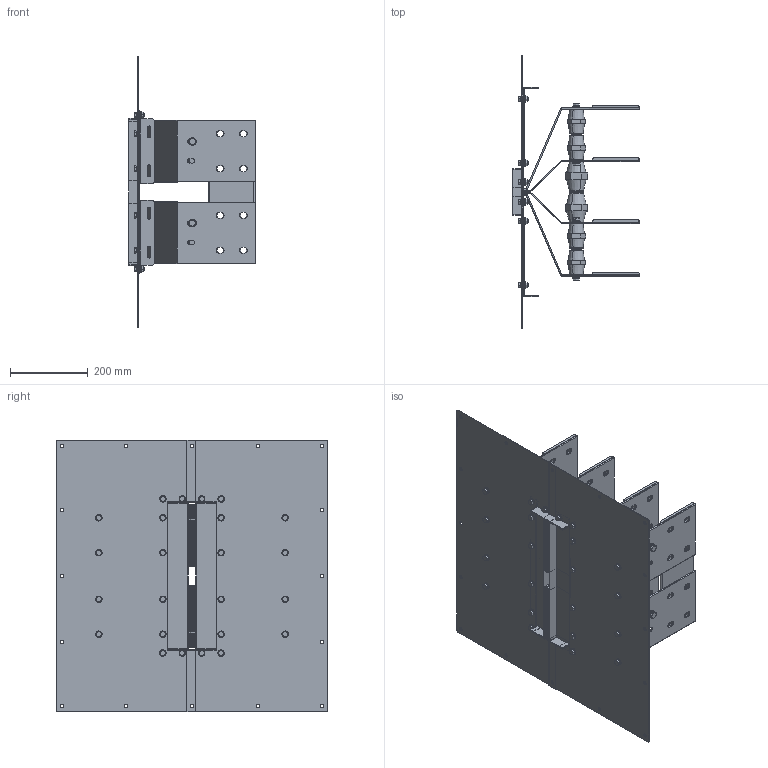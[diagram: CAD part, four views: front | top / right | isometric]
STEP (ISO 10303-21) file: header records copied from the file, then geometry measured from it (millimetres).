
FILE_DESCRIPTION(('CATIA V5 STEP','CAx-IF Rec.Pracs.--- Model Styling and Organization---1.5--- 2016-08-15','CAx-IF Rec.Pracs.---Supplemental Geometry---1.0---2011-11-01','CAx-IF Rec.Pracs.--- Composite Materials ---1.1---2010-07-15'),'2;1');
FILE_NAME('K:\COSCN 2011\32372311_RiduzioneSezioniBarre\03_Studio\__Modelli semplificati\XCP_UB semplificati per studi\XCP-S_UB_4C_Pe_CRT_Assieme\Cu\XCP-S_UB_4C_Pe_D_Assieme - 3200A Cu_CRT\XCP-S_UB_4C_Pe_D_Assieme - 3200A Cu_CRT.stp','2025-05-12T13:16:51+00:00',('Utente Bticino'),('Bticino S.p.A.'),'CATIA Version 5-6 Release 2020 SP5','CATIA V5 STEP AP214 v2','none');
FILE_SCHEMA(('AUTOMOTIVE_DESIGN { 1 0 10303 214 1 1 1 1 }'));
Length unit declared in the file: millimetre
Products named in the file (30): XCP-S_UB_4C_Pe_D_Assieme - 3200A Cu_CRT; XCP-S_UB_4C_Pe_D_PaccoBarre_3200A Cu_CRT; XCP-S_UB_4C_Pe_D_Lamiere_3200A Cu_CRT; XCP-S_UB_4C_Pe_D_PaccoBarre_3200A Cu_CRT_1; XCP-S_UB_4C_Pe_D - 3200A Cu_Bandelle parallelo_CRT; 130006; 130184; 00750033 - RONDELLA PIANA 4.8 D.12 UNI 6592 ZB; Ass_M10x25.1; 00740025 M10x25 UNI5739; Rondella spac M10 UNI 1751; 00750005; 130006_1; 00750033 - RONDELLA PIANA 4.8 D.12 UNI 6592 ZB_1; 130184_1; 130006_2; 00750033 - RONDELLA PIANA 4.8 D.12 UNI 6592 ZB_2; 130006_3; 130006_4; 130184_2; 00750033 - RONDELLA PIANA 4.8 D.12 UNI 6592 ZB_3; 130006_5; 00750033 - RONDELLA PIANA 4.8 D.12 UNI 6592 ZB_4; 130184_3; 130006_6; 00750033 - RONDELLA PIANA 4.8 D.12 UNI 6592 ZB_5; 130006_7; Ass Vite+dado M8; Steel hex flanged SCREW M12x16; Steel hex flanged NUT M8
Assembly tree (63 placements, depth 3):
  XCP-S_UB_4C_Pe_D_Assieme - 3200A Cu_CRT
    XCP-S_UB_4C_Pe_D_PaccoBarre_3200A Cu_CRT
    XCP-S_UB_4C_Pe_D_Lamiere_3200A Cu_CRT
    XCP-S_UB_4C_Pe_D_PaccoBarre_3200A Cu_CRT_1
    XCP-S_UB_4C_Pe_D - 3200A Cu_Bandelle parallelo_CRT
    130006
    130184
    00750033 - RONDELLA PIANA 4.8 D.12 UNI 6592 ZB
    Ass_M10x25.1  x12
      00740025 M10x25 UNI5739
      Rondella spac M10 UNI 1751
      00750005
    130006_1
    00750033 - RONDELLA PIANA 4.8 D.12 UNI 6592 ZB_1
    130184_1
    130006_2
    00750033 - RONDELLA PIANA 4.8 D.12 UNI 6592 ZB_2
    130006_3
    130006_4
    130184_2
    00750033 - RONDELLA PIANA 4.8 D.12 UNI 6592 ZB_3
    130006_5
    00750033 - RONDELLA PIANA 4.8 D.12 UNI 6592 ZB_4
    130184_3
    130006_6
    00750033 - RONDELLA PIANA 4.8 D.12 UNI 6592 ZB_5
    130006_7
    Ass Vite+dado M8  x24
      Steel hex flanged SCREW M12x16
      Steel hex flanged NUT M8
Bounding box: 325 x 700 x 700 mm (x, y, z)
Volume: 5274636.9 mm3; surface area: 3200631.6 mm2
Topology: 128 solids, 128 shells, 2880 faces, 6912 edges, 4348 vertices
Faces by surface type: plane 1288, cylinder 856, cone 336, bspline 288, torus 112
Entity records: 41585 total; most frequent: CARTESIAN_POINT 8444, ORIENTED_EDGE 7136, DIRECTION 5470, EDGE_CURVE 3568, AXIS2_PLACEMENT_3D 2356, VERTEX_POINT 2280, VECTOR 2108, LINE 2108
